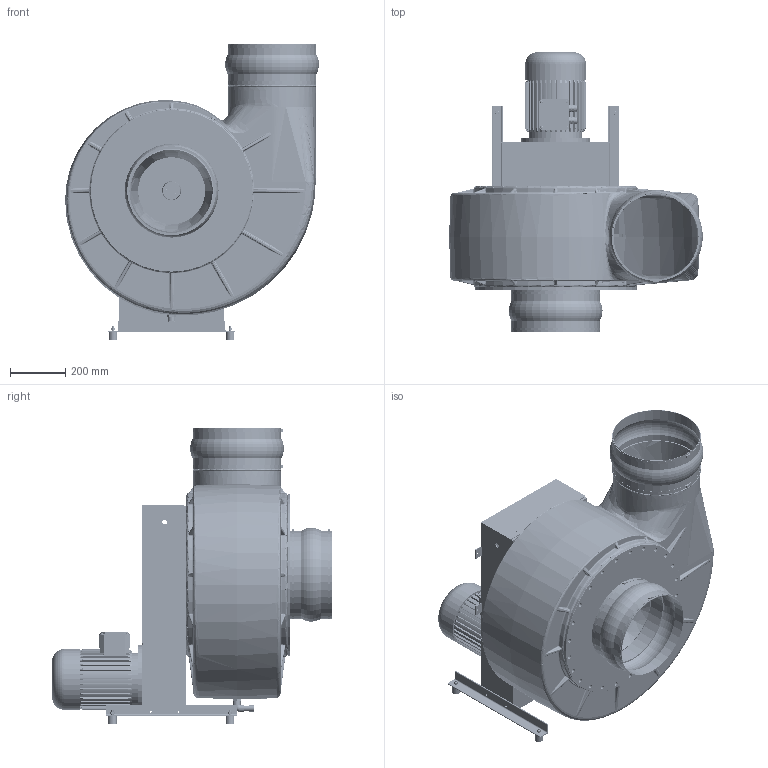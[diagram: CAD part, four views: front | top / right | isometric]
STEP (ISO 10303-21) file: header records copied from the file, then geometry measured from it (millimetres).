
FILE_DESCRIPTION( ( 'Unknown' ), '1' );
FILE_NAME( 'K:/HOME/HLT_CAD/Z/HF/3D/Zusammenstellung/HFR/HFR 15_17/HFR...-15RF/DS_1/HFR_315-15RF/GR360/HFR_315-15RF_DS1_GR_360_112.stp', 'Unknown', ( 'Unknown' ), ( 'Unknown' ), 'PSStep 14.0', 'Unknown', ' ' );
FILE_SCHEMA( ( 'AUTOMOTIVE_DESIGN { 1 0 10303 214 1 1 1 1 }' ) );
Length unit declared in the file: millimetre
Products named in the file (40): 5142_Gestell; Angle 40x40x4-oa0; Angle 40x40x4-oa1; 360; 5142_Gehäusebefestigung-oa2; 5142_Motorplatte; HFR 315_GR; Ensat-Buchse-M8; Laufrad 315; 1108_28; Deckscheibe 315; Nabe 160-315; 5158_Gehäusedeckel_315; 5158_Rohr; GD_FL 315; 315; 5158_Rohr_250; 6203_Kugelmanschette; 6203_Manschettenband_HFR315; 6203_Schelle_HFR315; 5159_Kondensatablauf_125-315; Winkel_90°_G1_2; Stopfen_G1_2-oa3; Rohr_20; Verschlusskappe_20; Assem1; 299T20W_926391; 1610_18; 2xSPA_125; 1108_18; 2xSPA_100; 1610_28; SPA-oa4; SPA-oa5; 6369_Riemenabdeckung_315; Schwidä_30x30; 6kant_M8; B5_112a_2HIHI
Assembly tree (103 placements, depth 3):
  Assem1
    299T20W_926391
    1610_18
    2xSPA_125
    1108_18
    2xSPA_100
    1610_28
    SPA-oa4
    SPA-oa5
    6369_Riemenabdeckung_315
    Schwidä_30x30  x4
    6kant_M8  x4
    B5_112a_2HIHI
    5142_Gestell
      Angle 40x40x4-oa0
      Angle 40x40x4-oa1
      360
      5142_Gehäusebefestigung-oa2
      5142_Motorplatte
    HFR 315_GR
      HFR 315_GR
      Ensat-Buchse-M8  x56
    Laufrad 315
      1108_28
      Laufrad 315
      Deckscheibe 315
      Nabe 160-315
    5158_Gehäusedeckel_315
      5158_Rohr
      GD_FL 315
      315  x2
      5158_Rohr_250
    5159_Kondensatablauf_125-315
      Winkel_90°_G1_2
      Stopfen_G1_2-oa3
      Rohr_20
      Verschlusskappe_20
    6203_Kugelmanschette  x2
      6203_Manschettenband_HFR315
      6203_Schelle_HFR315
Bounding box: 916.71 x 1010 x 1071 mm (x, y, z)
Volume: 23932487.3 mm3; surface area: 9229290.5 mm2
Topology: 98 solids, 99 shells, 3529 faces, 7513 edges, 4701 vertices
Faces by surface type: plane 1512, cylinder 1174, bspline 362, torus 225, cone 164, sphere 48, offset 36, revolution 8
Full cylindrical faces by diameter (mm): 6.35 x2, 6.647 x64, 7 x8, 8 x20, 8.376 x1, 9 x2, 9.5 x6, 10 x4, 11 x7, 12 x225, 13 x232, 14.5 x4, 15 x25, 16 x6, 17 x51, 18 x2, 20 x4, 20.955 x1, 22.212 x1, 23 x1, 24 x4, 26.5 x2, 28 x1, 30 x4, 33.6 x1, 46 x1, 50 x1, 54 x1, 60 x2, 68 x1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
Entity records: 189652 total; most frequent: CARTESIAN_POINT 104382, DIRECTION 12479, ORIENTED_EDGE 11314, EDGE_CURVE 5657, AXIS2_PLACEMENT_3D 5231, EDGE_LOOP 4084, VERTEX_POINT 3838, FACE_OUTER_BOUND 3475
